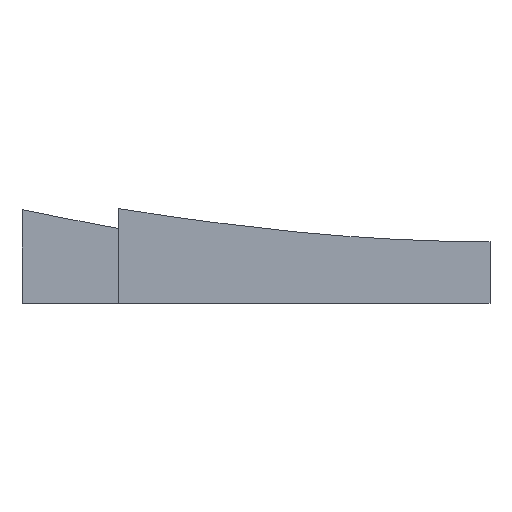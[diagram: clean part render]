
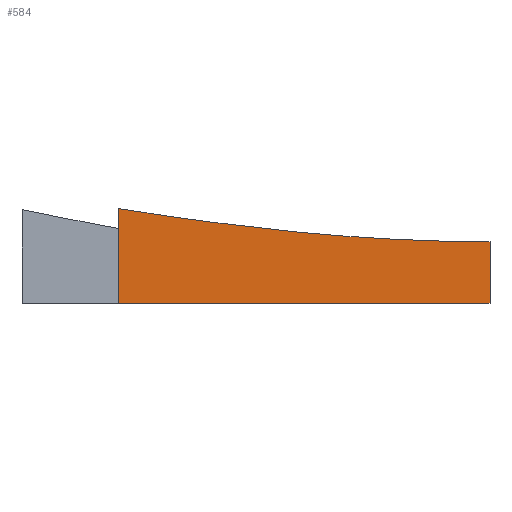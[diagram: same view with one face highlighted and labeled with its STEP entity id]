
A CAD part, front view. The second image highlights one B-rep face of the part: STEP entity #584.
In plain terms, the highlighted planar face has unit normal (0, -1, 0).
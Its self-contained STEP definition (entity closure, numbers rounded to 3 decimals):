
#70 = PLANE('',#71);
#71 = AXIS2_PLACEMENT_3D('',#72,#73,#74);
#72 = CARTESIAN_POINT('',(-155.,-210.,0.));
#73 = DIRECTION('',(0.,0.,1.));
#74 = DIRECTION('',(1.,0.,0.));
#123 = CONICAL_SURFACE('',#124,112.,1.309);
#124 = AXIS2_PLACEMENT_3D('',#125,#126,#127);
#125 = CARTESIAN_POINT('',(0.,-46.,6.5));
#126 = DIRECTION('',(0.,0.,1.));
#127 = DIRECTION('',(1.,0.,0.));
#176 = PLANE('',#177);
#177 = AXIS2_PLACEMENT_3D('',#178,#179,#180);
#178 = CARTESIAN_POINT('',(-123.,-220.,-1.));
#179 = DIRECTION('',(1.,0.,0.));
#180 = DIRECTION('',(0.,0.,1.));
#288 = VERTEX_POINT('',#289);
#289 = CARTESIAN_POINT('',(0.,-210.,20.435));
#302 = PLANE('',#303);
#303 = AXIS2_PLACEMENT_3D('',#304,#305,#306);
#304 = CARTESIAN_POINT('',(0.,-400.,-2.));
#305 = DIRECTION('',(1.,0.,0.));
#306 = DIRECTION('',(0.,0.,1.));
#313 = EDGE_CURVE('',#314,#288,#316,.T.);
#314 = VERTEX_POINT('',#315);
#315 = CARTESIAN_POINT('',(-123.,-210.,31.423));
#316 = SURFACE_CURVE('',#317,(#322,#342),.PCURVE_S1.);
#317 = HYPERBOLA('',#318,43.95,164.);
#318 = AXIS2_PLACEMENT_3D('',#319,#320,#321);
#319 = CARTESIAN_POINT('',(0.,-210.,-23.515));
#320 = DIRECTION('',(0.,1.,0.));
#321 = DIRECTION('',(0.,-0.,1.));
#322 = PCURVE('',#123,#323);
#323 = DEFINITIONAL_REPRESENTATION('',(#324),#341);
#324 = B_SPLINE_CURVE_WITH_KNOTS('',8,(#325,#326,#327,#328,#329,#330,
    #331,#332,#333,#334,#335,#336,#337,#338,#339,#340),.UNSPECIFIED.,.F.
  ,.F.,(9,7,9),(-0.973,0.,0.973),.UNSPECIFIED.);
#325 = CARTESIAN_POINT('',(3.864,36.44));
#326 = CARTESIAN_POINT('',(3.945,30.377));
#327 = CARTESIAN_POINT('',(4.033,25.437));
#328 = CARTESIAN_POINT('',(4.131,21.485));
#329 = CARTESIAN_POINT('',(4.237,18.418));
#330 = CARTESIAN_POINT('',(4.35,16.165));
#331 = CARTESIAN_POINT('',(4.469,14.679));
#332 = CARTESIAN_POINT('',(4.591,13.935));
#333 = CARTESIAN_POINT('',(4.834,13.935));
#334 = CARTESIAN_POINT('',(4.956,14.679));
#335 = CARTESIAN_POINT('',(5.075,16.165));
#336 = CARTESIAN_POINT('',(5.188,18.418));
#337 = CARTESIAN_POINT('',(5.294,21.485));
#338 = CARTESIAN_POINT('',(5.391,25.437));
#339 = CARTESIAN_POINT('',(5.48,30.377));
#340 = CARTESIAN_POINT('',(5.561,36.44));
#341 = ( GEOMETRIC_REPRESENTATION_CONTEXT(2) 
PARAMETRIC_REPRESENTATION_CONTEXT() REPRESENTATION_CONTEXT('2D SPACE',''
  ) );
#342 = PCURVE('',#343,#348);
#343 = PLANE('',#344);
#344 = AXIS2_PLACEMENT_3D('',#345,#346,#347);
#345 = CARTESIAN_POINT('',(-155.,-210.,0.));
#346 = DIRECTION('',(0.,1.,0.));
#347 = DIRECTION('',(0.,0.,1.));
#348 = DEFINITIONAL_REPRESENTATION('',(#349),#353);
#349 = ( BOUNDED_CURVE() B_SPLINE_CURVE(2,(#350,#351,#352),
.UNSPECIFIED.,.F.,.F.) B_SPLINE_CURVE_WITH_KNOTS((3,3),(-0.973,
0.973),.PIECEWISE_BEZIER_KNOTS.) CURVE() 
GEOMETRIC_REPRESENTATION_ITEM() RATIONAL_B_SPLINE_CURVE((1.,
1.512,1.)) REPRESENTATION_ITEM('') );
#350 = CARTESIAN_POINT('',(42.94,-31.));
#351 = CARTESIAN_POINT('',(5.552,155.));
#352 = CARTESIAN_POINT('',(42.94,341.));
#353 = ( GEOMETRIC_REPRESENTATION_CONTEXT(2) 
PARAMETRIC_REPRESENTATION_CONTEXT() REPRESENTATION_CONTEXT('2D SPACE',''
  ) );
#434 = VERTEX_POINT('',#435);
#435 = CARTESIAN_POINT('',(-123.,-210.,0.));
#454 = EDGE_CURVE('',#434,#455,#457,.T.);
#455 = VERTEX_POINT('',#456);
#456 = CARTESIAN_POINT('',(0.,-210.,0.));
#457 = SURFACE_CURVE('',#458,(#462,#469),.PCURVE_S1.);
#458 = LINE('',#459,#460);
#459 = CARTESIAN_POINT('',(-155.,-210.,0.));
#460 = VECTOR('',#461,1.);
#461 = DIRECTION('',(1.,0.,0.));
#462 = PCURVE('',#70,#463);
#463 = DEFINITIONAL_REPRESENTATION('',(#464),#468);
#464 = LINE('',#465,#466);
#465 = CARTESIAN_POINT('',(0.,0.));
#466 = VECTOR('',#467,1.);
#467 = DIRECTION('',(1.,0.));
#468 = ( GEOMETRIC_REPRESENTATION_CONTEXT(2) 
PARAMETRIC_REPRESENTATION_CONTEXT() REPRESENTATION_CONTEXT('2D SPACE',''
  ) );
#469 = PCURVE('',#343,#470);
#470 = DEFINITIONAL_REPRESENTATION('',(#471),#475);
#471 = LINE('',#472,#473);
#472 = CARTESIAN_POINT('',(0.,0.));
#473 = VECTOR('',#474,1.);
#474 = DIRECTION('',(0.,1.));
#475 = ( GEOMETRIC_REPRESENTATION_CONTEXT(2) 
PARAMETRIC_REPRESENTATION_CONTEXT() REPRESENTATION_CONTEXT('2D SPACE',''
  ) );
#565 = EDGE_CURVE('',#314,#434,#566,.T.);
#566 = SURFACE_CURVE('',#567,(#571,#577),.PCURVE_S1.);
#567 = LINE('',#568,#569);
#568 = CARTESIAN_POINT('',(-123.,-210.,-0.5));
#569 = VECTOR('',#570,1.);
#570 = DIRECTION('',(0.,0.,-1.));
#571 = PCURVE('',#176,#572);
#572 = DEFINITIONAL_REPRESENTATION('',(#573),#576);
#573 = B_SPLINE_CURVE_WITH_KNOTS('',1,(#574,#575),.UNSPECIFIED.,.F.,.F.,
  (2,2),(-37.459,-0.5),.PIECEWISE_BEZIER_KNOTS.);
#574 = CARTESIAN_POINT('',(37.959,-10.));
#575 = CARTESIAN_POINT('',(1.,-10.));
#576 = ( GEOMETRIC_REPRESENTATION_CONTEXT(2) 
PARAMETRIC_REPRESENTATION_CONTEXT() REPRESENTATION_CONTEXT('2D SPACE',''
  ) );
#577 = PCURVE('',#343,#578);
#578 = DEFINITIONAL_REPRESENTATION('',(#579),#582);
#579 = B_SPLINE_CURVE_WITH_KNOTS('',1,(#580,#581),.UNSPECIFIED.,.F.,.F.,
  (2,2),(-37.459,-0.5),.PIECEWISE_BEZIER_KNOTS.);
#580 = CARTESIAN_POINT('',(36.959,32.));
#581 = CARTESIAN_POINT('',(0.,32.));
#582 = ( GEOMETRIC_REPRESENTATION_CONTEXT(2) 
PARAMETRIC_REPRESENTATION_CONTEXT() REPRESENTATION_CONTEXT('2D SPACE',''
  ) );
#584 = ADVANCED_FACE('',(#585),#343,.F.);
#585 = FACE_BOUND('',#586,.F.);
#586 = EDGE_LOOP('',(#587,#588,#607,#608));
#587 = ORIENTED_EDGE('',*,*,#313,.T.);
#588 = ORIENTED_EDGE('',*,*,#589,.T.);
#589 = EDGE_CURVE('',#288,#455,#590,.T.);
#590 = SURFACE_CURVE('',#591,(#595,#601),.PCURVE_S1.);
#591 = LINE('',#592,#593);
#592 = CARTESIAN_POINT('',(0.,-210.,-1.));
#593 = VECTOR('',#594,1.);
#594 = DIRECTION('',(0.,0.,-1.));
#595 = PCURVE('',#343,#596);
#596 = DEFINITIONAL_REPRESENTATION('',(#597),#600);
#597 = B_SPLINE_CURVE_WITH_KNOTS('',1,(#598,#599),.UNSPECIFIED.,.F.,.F.,
  (2,2),(-32.423,-1.),.PIECEWISE_BEZIER_KNOTS.);
#598 = CARTESIAN_POINT('',(31.423,155.));
#599 = CARTESIAN_POINT('',(0.,155.));
#600 = ( GEOMETRIC_REPRESENTATION_CONTEXT(2) 
PARAMETRIC_REPRESENTATION_CONTEXT() REPRESENTATION_CONTEXT('2D SPACE',''
  ) );
#601 = PCURVE('',#302,#602);
#602 = DEFINITIONAL_REPRESENTATION('',(#603),#606);
#603 = B_SPLINE_CURVE_WITH_KNOTS('',1,(#604,#605),.UNSPECIFIED.,.F.,.F.,
  (2,2),(-32.423,-1.),.PIECEWISE_BEZIER_KNOTS.);
#604 = CARTESIAN_POINT('',(33.423,-190.));
#605 = CARTESIAN_POINT('',(2.,-190.));
#606 = ( GEOMETRIC_REPRESENTATION_CONTEXT(2) 
PARAMETRIC_REPRESENTATION_CONTEXT() REPRESENTATION_CONTEXT('2D SPACE',''
  ) );
#607 = ORIENTED_EDGE('',*,*,#454,.F.);
#608 = ORIENTED_EDGE('',*,*,#565,.F.);
